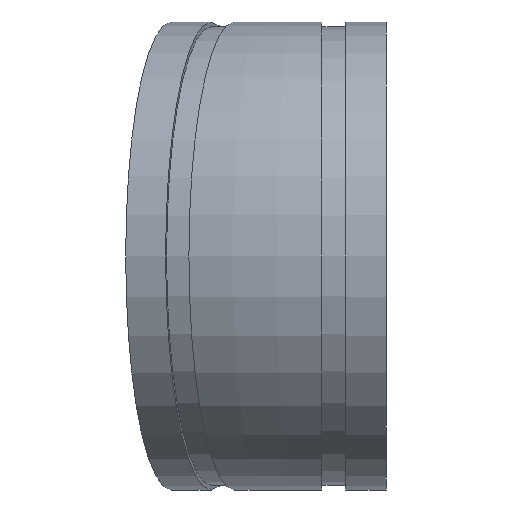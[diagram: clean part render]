
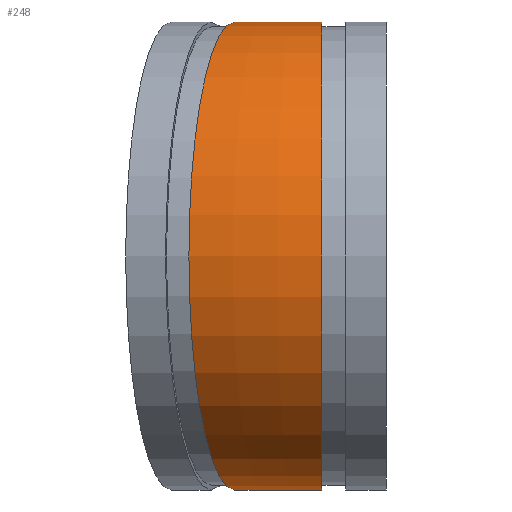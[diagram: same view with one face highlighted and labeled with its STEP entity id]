
A CAD part, left-side view. The second image highlights one B-rep face of the part: STEP entity #248.
In plain terms, the highlighted toroidal (fillet/blend) face has major radius 209.407 mm and minor radius 109.537 mm.
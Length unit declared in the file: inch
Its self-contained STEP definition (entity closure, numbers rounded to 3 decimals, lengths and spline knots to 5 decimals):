
#15=TOROIDAL_SURFACE('',#303,8.24437,4.3125);
#47=FACE_OUTER_BOUND('',#65,.T.);
#65=EDGE_LOOP('',(#190,#191,#192,#193,#194,#195));
#79=CIRCLE('',#283,4.3125);
#80=CIRCLE('',#284,4.3125);
#86=CIRCLE('',#293,4.3125);
#87=CIRCLE('',#294,4.3125);
#95=CIRCLE('',#304,3.93187);
#105=VERTEX_POINT('',#418);
#106=VERTEX_POINT('',#419);
#112=VERTEX_POINT('',#436);
#113=VERTEX_POINT('',#437);
#130=EDGE_CURVE('',#105,#106,#79,.T.);
#131=EDGE_CURVE('',#106,#105,#80,.T.);
#138=EDGE_CURVE('',#112,#113,#86,.T.);
#139=EDGE_CURVE('',#113,#112,#87,.T.);
#147=EDGE_CURVE('',#113,#106,#95,.T.);
#190=ORIENTED_EDGE('',*,*,#138,.T.);
#191=ORIENTED_EDGE('',*,*,#147,.T.);
#192=ORIENTED_EDGE('',*,*,#131,.T.);
#193=ORIENTED_EDGE('',*,*,#130,.T.);
#194=ORIENTED_EDGE('',*,*,#147,.F.);
#195=ORIENTED_EDGE('',*,*,#139,.T.);
#248=ADVANCED_FACE('',(#47),#15,.T.);
#283=AXIS2_PLACEMENT_3D('',#420,#334,#335);
#284=AXIS2_PLACEMENT_3D('',#421,#336,#337);
#293=AXIS2_PLACEMENT_3D('',#438,#355,#356);
#294=AXIS2_PLACEMENT_3D('',#439,#357,#358);
#303=AXIS2_PLACEMENT_3D('',#454,#375,#376);
#304=AXIS2_PLACEMENT_3D('',#455,#377,#378);
#334=DIRECTION('center_axis',(0.,1.,0.));
#335=DIRECTION('ref_axis',(1.,0.,0.));
#336=DIRECTION('center_axis',(0.,1.,0.));
#337=DIRECTION('ref_axis',(1.,0.,0.));
#355=DIRECTION('center_axis',(-0.195,-0.981,0.));
#356=DIRECTION('ref_axis',(0.981,-0.195,0.));
#357=DIRECTION('center_axis',(-0.195,-0.981,0.));
#358=DIRECTION('ref_axis',(0.981,-0.195,0.));
#375=DIRECTION('center_axis',(0.,0.,-1.));
#376=DIRECTION('ref_axis',(-1.,0.,0.));
#377=DIRECTION('center_axis',(0.,0.,1.));
#378=DIRECTION('ref_axis',(-1.,0.,0.));
#418=CARTESIAN_POINT('',(0.,1.188,4.3125));
#419=CARTESIAN_POINT('',(4.3125,1.188,0.));
#420=CARTESIAN_POINT('Origin',(0.,1.188,0.));
#421=CARTESIAN_POINT('Origin',(0.,1.188,0.));
#436=CARTESIAN_POINT('',(0.15841,2.7964,4.3125));
#437=CARTESIAN_POINT('',(4.38805,1.95507,0.));
#438=CARTESIAN_POINT('Origin',(0.15841,2.7964,0.));
#439=CARTESIAN_POINT('Origin',(0.15841,2.7964,0.));
#454=CARTESIAN_POINT('Origin',(8.24437,1.188,0.));
#455=CARTESIAN_POINT('Origin',(8.24437,1.188,0.));
